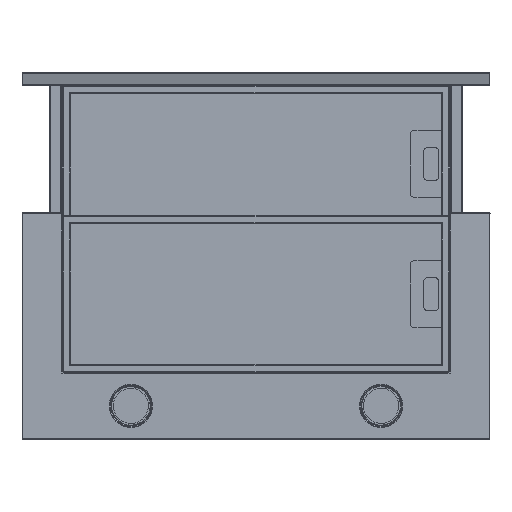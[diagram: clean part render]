
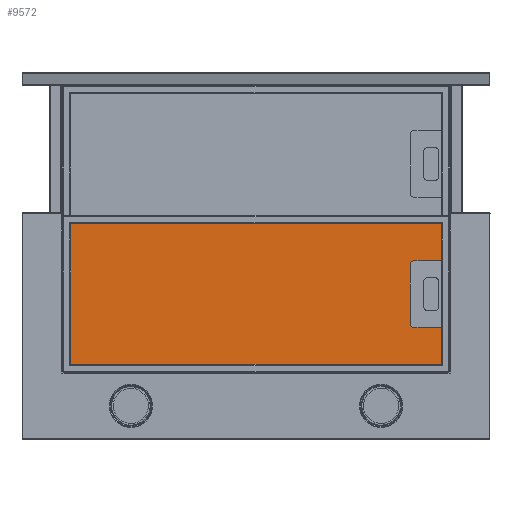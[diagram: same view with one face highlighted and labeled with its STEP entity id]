
A CAD part, front view. The second image highlights one B-rep face of the part: STEP entity #9572.
In plain terms, the highlighted planar face has unit normal (0, -1, 0).
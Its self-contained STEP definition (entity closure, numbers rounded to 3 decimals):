
#13 = DIRECTION ( 'NONE',  ( -1., 0., 0. ) ) ;
#135 = ORIENTED_EDGE ( 'NONE', *, *, #10698, .T. ) ;
#214 = CARTESIAN_POINT ( 'NONE',  ( -236.998, 200.693, 2.833 ) ) ;
#514 = DIRECTION ( 'NONE',  ( 0., 0., 1. ) ) ;
#783 = EDGE_CURVE ( 'NONE', #12514, #14759, #15509, .T. ) ;
#1001 = EDGE_CURVE ( 'NONE', #17438, #18279, #5008, .T. ) ;
#1017 = EDGE_LOOP ( 'NONE', ( #13910, #1481, #7198, #14888, #13188, #1879, #8159, #3986 ) ) ;
#1481 = ORIENTED_EDGE ( 'NONE', *, *, #10696, .F. ) ;
#1744 = CARTESIAN_POINT ( 'NONE',  ( 233.502, 200.693, -87.167 ) ) ;
#1756 = AXIS2_PLACEMENT_3D ( 'NONE', #12060, #9161, #514 ) ;
#1833 = CARTESIAN_POINT ( 'NONE',  ( 219.502, 200.693, -71.167 ) ) ;
#1879 = ORIENTED_EDGE ( 'NONE', *, *, #5204, .F. ) ;
#1960 = AXIS2_PLACEMENT_3D ( 'NONE', #1833, #11997, #3290 ) ;
#2051 = CARTESIAN_POINT ( 'NONE',  ( 237.002, 200.693, 2.833 ) ) ;
#2081 = VECTOR ( 'NONE', #13, 1000. ) ;
#2371 = AXIS2_PLACEMENT_3D ( 'NONE', #2910, #18094, #4376 ) ;
#2465 = CARTESIAN_POINT ( 'NONE',  ( 214.502, 200.693, -87.167 ) ) ;
#2565 = VECTOR ( 'NONE', #8937, 1000. ) ;
#2737 = VERTEX_POINT ( 'NONE', #214 ) ;
#2860 = EDGE_CURVE ( 'NONE', #8200, #14669, #12560, .T. ) ;
#2910 = CARTESIAN_POINT ( 'NONE',  ( 228.502, 200.693, -71.167 ) ) ;
#3137 = VERTEX_POINT ( 'NONE', #5049 ) ;
#3290 = DIRECTION ( 'NONE',  ( 0., 0., -1. ) ) ;
#3464 = VECTOR ( 'NONE', #9733, 1000. ) ;
#3880 = VECTOR ( 'NONE', #11452, 1000. ) ;
#3924 = LINE ( 'NONE', #6782, #4357 ) ;
#3955 = FACE_OUTER_BOUND ( 'NONE', #9848, .T. ) ;
#3986 = ORIENTED_EDGE ( 'NONE', *, *, #10667, .F. ) ;
#4149 = DIRECTION ( 'NONE',  ( 0., -1., 0. ) ) ;
#4292 = CARTESIAN_POINT ( 'NONE',  ( 237.002, 200.693, -177.167 ) ) ;
#4357 = VECTOR ( 'NONE', #16983, 1000. ) ;
#4376 = DIRECTION ( 'NONE',  ( 0., 0., -1. ) ) ;
#4557 = DIRECTION ( 'NONE',  ( 0., -1., 0. ) ) ;
#4861 = ORIENTED_EDGE ( 'NONE', *, *, #6444, .T. ) ;
#5008 = CIRCLE ( 'NONE', #2371, 5. ) ;
#5049 = CARTESIAN_POINT ( 'NONE',  ( 214.502, 200.693, -71.167 ) ) ;
#5204 = EDGE_CURVE ( 'NONE', #14669, #17438, #6439, .T. ) ;
#5304 = LINE ( 'NONE', #7064, #13518 ) ;
#6348 = EDGE_CURVE ( 'NONE', #18467, #12983, #14149, .T. ) ;
#6439 = LINE ( 'NONE', #1744, #2565 ) ;
#6444 = EDGE_CURVE ( 'NONE', #14759, #2737, #9317, .T. ) ;
#6782 = CARTESIAN_POINT ( 'NONE',  ( -246.998, 200.693, -108.167 ) ) ;
#6906 = FACE_BOUND ( 'NONE', #1017, .T. ) ;
#7064 = CARTESIAN_POINT ( 'NONE',  ( -246.998, 200.693, -66.167 ) ) ;
#7139 = CARTESIAN_POINT ( 'NONE',  ( 237.002, 200.693, -177.167 ) ) ;
#7175 = CARTESIAN_POINT ( 'NONE',  ( 233.502, 200.693, -103.167 ) ) ;
#7198 = ORIENTED_EDGE ( 'NONE', *, *, #15355, .F. ) ;
#7607 = AXIS2_PLACEMENT_3D ( 'NONE', #15606, #4557, #11127 ) ;
#7711 = PLANE ( 'NONE',  #1756 ) ;
#7922 = CIRCLE ( 'NONE', #1960, 5. ) ;
#7965 = CARTESIAN_POINT ( 'NONE',  ( 214.502, 200.693, -103.167 ) ) ;
#8019 = AXIS2_PLACEMENT_3D ( 'NONE', #12863, #4149, #14341 ) ;
#8159 = ORIENTED_EDGE ( 'NONE', *, *, #2860, .F. ) ;
#8200 = VERTEX_POINT ( 'NONE', #9991 ) ;
#8937 = DIRECTION ( 'NONE',  ( 0., 0., 1. ) ) ;
#9038 = CARTESIAN_POINT ( 'NONE',  ( 228.502, 200.693, -66.167 ) ) ;
#9161 = DIRECTION ( 'NONE',  ( 0., -1., 0. ) ) ;
#9190 = VERTEX_POINT ( 'NONE', #12583 ) ;
#9317 = LINE ( 'NONE', #17456, #2081 ) ;
#9385 = EDGE_CURVE ( 'NONE', #9190, #12514, #13537, .T. ) ;
#9572 = ADVANCED_FACE ( 'NONE', ( #6906, #3955 ), #7711, .T. ) ;
#9733 = DIRECTION ( 'NONE',  ( 0., 0., -1. ) ) ;
#9848 = EDGE_LOOP ( 'NONE', ( #135, #10501, #17727, #4861 ) ) ;
#9971 = EDGE_CURVE ( 'NONE', #18279, #13619, #5304, .T. ) ;
#9991 = CARTESIAN_POINT ( 'NONE',  ( 228.502, 200.693, -108.167 ) ) ;
#10131 = DIRECTION ( 'NONE',  ( 1., 0., 0. ) ) ;
#10297 = CARTESIAN_POINT ( 'NONE',  ( 237.002, 200.693, 2.833 ) ) ;
#10501 = ORIENTED_EDGE ( 'NONE', *, *, #9385, .T. ) ;
#10667 = EDGE_CURVE ( 'NONE', #12983, #8200, #3924, .T. ) ;
#10696 = EDGE_CURVE ( 'NONE', #3137, #18467, #15106, .T. ) ;
#10698 = EDGE_CURVE ( 'NONE', #2737, #9190, #11629, .T. ) ;
#11127 = DIRECTION ( 'NONE',  ( 0., 0., -1. ) ) ;
#11452 = DIRECTION ( 'NONE',  ( 0., 0., 1. ) ) ;
#11629 = LINE ( 'NONE', #14120, #3464 ) ;
#11997 = DIRECTION ( 'NONE',  ( 0., -1., 0. ) ) ;
#12060 = CARTESIAN_POINT ( 'NONE',  ( -246.998, 200.693, -87.167 ) ) ;
#12514 = VERTEX_POINT ( 'NONE', #7139 ) ;
#12560 = CIRCLE ( 'NONE', #7607, 5. ) ;
#12583 = CARTESIAN_POINT ( 'NONE',  ( -236.998, 200.693, -177.167 ) ) ;
#12863 = CARTESIAN_POINT ( 'NONE',  ( 219.502, 200.693, -103.167 ) ) ;
#12983 = VERTEX_POINT ( 'NONE', #17586 ) ;
#13054 = VECTOR ( 'NONE', #10131, 1000. ) ;
#13059 = DIRECTION ( 'NONE',  ( -1., 0., 0. ) ) ;
#13188 = ORIENTED_EDGE ( 'NONE', *, *, #1001, .F. ) ;
#13518 = VECTOR ( 'NONE', #13059, 1000. ) ;
#13537 = LINE ( 'NONE', #4292, #13054 ) ;
#13619 = VERTEX_POINT ( 'NONE', #14553 ) ;
#13910 = ORIENTED_EDGE ( 'NONE', *, *, #6348, .F. ) ;
#14120 = CARTESIAN_POINT ( 'NONE',  ( -236.998, 200.693, -177.167 ) ) ;
#14149 = CIRCLE ( 'NONE', #8019, 5. ) ;
#14341 = DIRECTION ( 'NONE',  ( 0., 0., -1. ) ) ;
#14553 = CARTESIAN_POINT ( 'NONE',  ( 219.502, 200.693, -66.167 ) ) ;
#14669 = VERTEX_POINT ( 'NONE', #7175 ) ;
#14759 = VERTEX_POINT ( 'NONE', #10297 ) ;
#14888 = ORIENTED_EDGE ( 'NONE', *, *, #9971, .F. ) ;
#15106 = LINE ( 'NONE', #2465, #18498 ) ;
#15355 = EDGE_CURVE ( 'NONE', #13619, #3137, #7922, .T. ) ;
#15509 = LINE ( 'NONE', #2051, #3880 ) ;
#15606 = CARTESIAN_POINT ( 'NONE',  ( 228.502, 200.693, -103.167 ) ) ;
#16784 = CARTESIAN_POINT ( 'NONE',  ( 233.502, 200.693, -71.167 ) ) ;
#16983 = DIRECTION ( 'NONE',  ( 1., 0., 0. ) ) ;
#17043 = DIRECTION ( 'NONE',  ( 0., 0., -1. ) ) ;
#17438 = VERTEX_POINT ( 'NONE', #16784 ) ;
#17456 = CARTESIAN_POINT ( 'NONE',  ( 237.002, 200.693, 2.833 ) ) ;
#17586 = CARTESIAN_POINT ( 'NONE',  ( 219.502, 200.693, -108.167 ) ) ;
#17727 = ORIENTED_EDGE ( 'NONE', *, *, #783, .T. ) ;
#18094 = DIRECTION ( 'NONE',  ( 0., -1., 0. ) ) ;
#18279 = VERTEX_POINT ( 'NONE', #9038 ) ;
#18467 = VERTEX_POINT ( 'NONE', #7965 ) ;
#18498 = VECTOR ( 'NONE', #17043, 1000. ) ;
